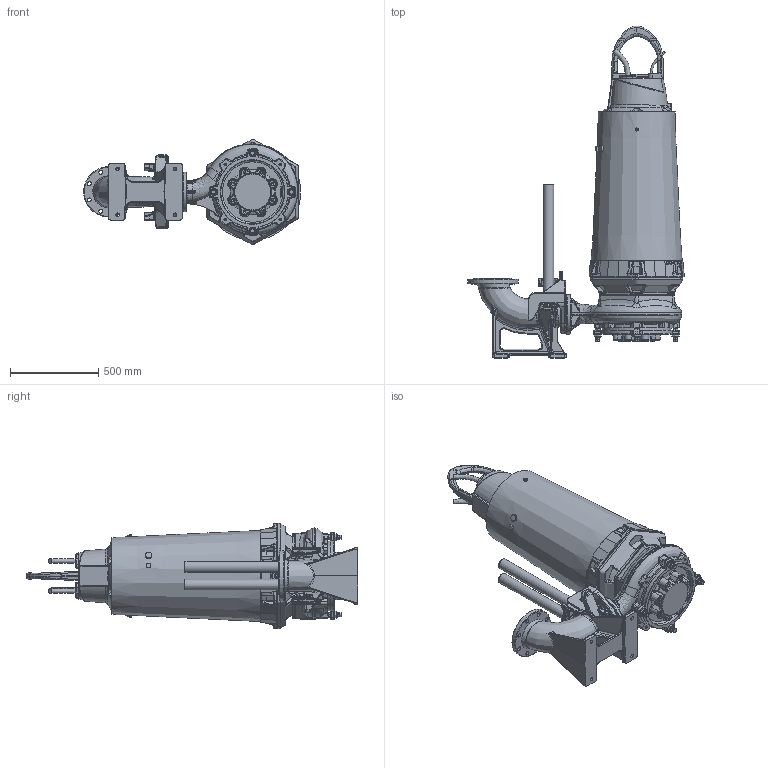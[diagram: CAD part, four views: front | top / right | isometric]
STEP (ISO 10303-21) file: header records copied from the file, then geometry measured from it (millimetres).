
FILE_DESCRIPTION (( 'STEP AP203' ), '1' );
FILE_NAME ('PE5_XFP105J-CB2_WET 2guide_NG2_DN 100-150_A.STEP', '2022-04-06T11:06:45', ( '' ), ( '' ), 'SwSTEP 2.0', 'SolidWorks 2017', '' );
FILE_SCHEMA (( 'CONFIG_CONTROL_DESIGN' ));
Length unit declared in the file: millimetre
Products named in the file (2): PE5_XFP105J-CB2_WET 2guide_NG2_DN 100-150_A
Bounding box: 1226.79 x 1880.3 x 595.59 mm (x, y, z)
Volume: 268061304.3 mm3; surface area: 4883678.5 mm2
Topology: 12 solids, 29 shells, 4228 faces, 10450 edges, 6192 vertices
Faces by surface type: bspline 1313, plane 1073, cylinder 919, cone 392, torus 389, sphere 142
Full cylindrical faces by diameter (mm): 8.5 x7, 10 x5, 10.2 x2, 11 x11, 11.5 x1, 14 x8, 16 x4, 16.5 x8, 17 x4, 17.5 x2, 18 x8, 19 x5, 20 x5, 22 x10, 25 x1, 26 x8, 27.5 x2, 28 x8, 36 x1, 53 x2, 56 x2, 60.3 x2, 285 x1, 383.6 x1, 392 x2
Entity records: 268529 total; most frequent: CARTESIAN_POINT 181470, ORIENTED_EDGE 19916, DIRECTION 15584, EDGE_CURVE 9958, AXIS2_PLACEMENT_3D 6334, VERTEX_POINT 6054, EDGE_LOOP 4604, FACE_OUTER_BOUND 4381
